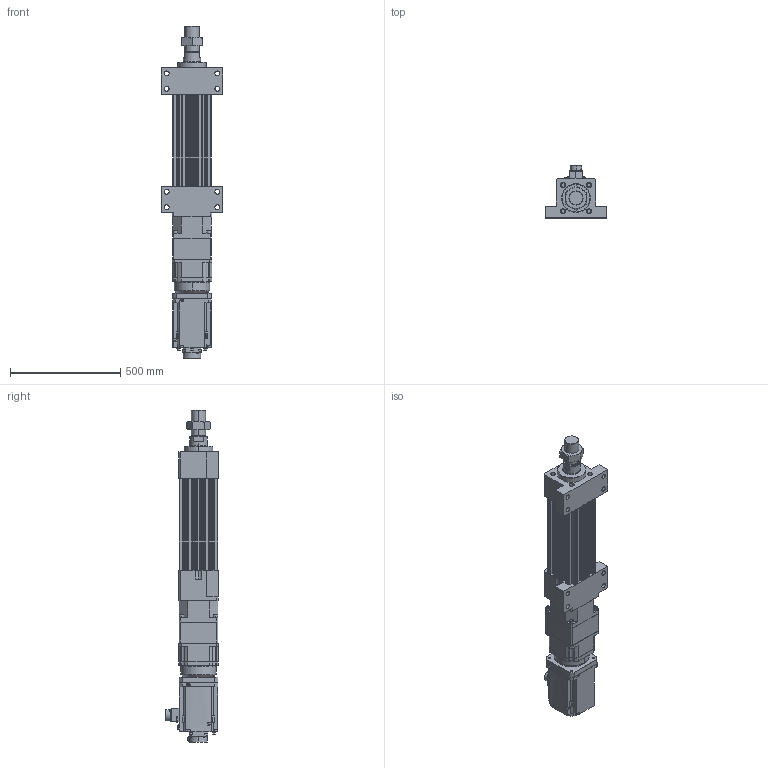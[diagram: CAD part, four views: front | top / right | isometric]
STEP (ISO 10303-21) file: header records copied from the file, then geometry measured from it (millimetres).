
FILE_DESCRIPTION (( 'STEP AP203' ), '1' );
FILE_NAME ('HES180HS-S100-W070G00-M-FFB.STEP', '2026-06-10T06:50:49', ( 'tms' ), ( '' ), 'SwSTEP 2.0', 'SolidWorks 2013', '' );
FILE_SCHEMA (( 'CONFIG_CONTROL_DESIGN' ));
Length unit declared in the file: millimetre
Products named in the file (9): HES180-FFB-100; HES180HS-S100-W070G00-M-FFB; M64X2.0P; HES180-M-ROD-100; AB1801; HES180-S-G180; AB1803; AB1802; HG-SR702B
Assembly tree (8 placements, depth 2):
  HES180HS-S100-W070G00-M-FFB
    HES180-FFB-100
    HES180-M-ROD-100
    M64X2.0P
    HES180-S-G180
    AB1801
    AB1802
    AB1803
    HG-SR702B
Bounding box: 280 x 239.1 x 1505.74 mm (x, y, z)
Volume: 24325720.7 mm3; surface area: 2070116.1 mm2
Topology: 5 solids, 20 shells, 1552 faces, 4023 edges, 2624 vertices
Faces by surface type: cylinder 704, plane 639, cone 142, bspline 63, torus 4
Entity records: 56368 total; most frequent: CARTESIAN_POINT 16636, DIRECTION 8361, ORIENTED_EDGE 7970, EDGE_CURVE 4009, AXIS2_PLACEMENT_3D 3129, VERTEX_POINT 2624, VECTOR 2103, LINE 2103
